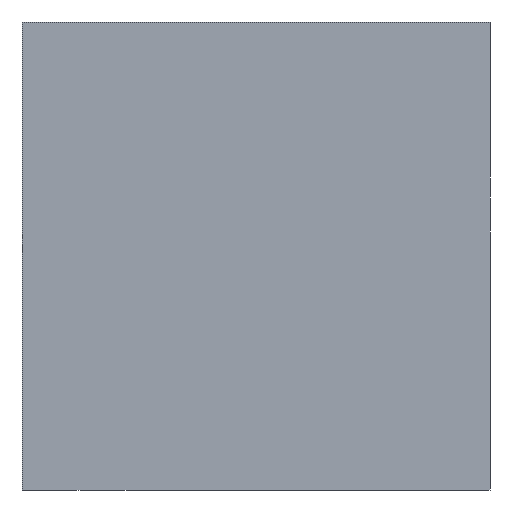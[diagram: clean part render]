
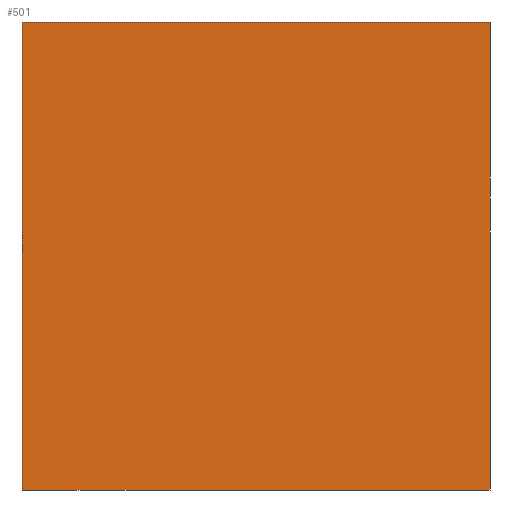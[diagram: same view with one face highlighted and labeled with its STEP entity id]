
A CAD part, left-side view. The second image highlights one B-rep face of the part: STEP entity #501.
In plain terms, the highlighted planar face has unit normal (-1, 0, 0).
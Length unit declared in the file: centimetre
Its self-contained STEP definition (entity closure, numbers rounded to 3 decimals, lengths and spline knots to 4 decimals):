
#57 = LINE ( 'NONE', #358, #305 ) ;
#86 = PLANE ( 'NONE',  #167 ) ;
#96 = CARTESIAN_POINT ( 'NONE',  ( 0., 0., 1000. ) ) ;
#109 = VECTOR ( 'NONE', #853, 100. ) ;
#127 = ORIENTED_EDGE ( 'NONE', *, *, #876, .T. ) ;
#164 = ORIENTED_EDGE ( 'NONE', *, *, #376, .F. ) ;
#167 = AXIS2_PLACEMENT_3D ( 'NONE', #752, #230, #603 ) ;
#221 = CARTESIAN_POINT ( 'NONE',  ( 0., 1000., 0. ) ) ;
#230 = DIRECTION ( 'NONE',  ( 1., 0., 0. ) ) ;
#264 = EDGE_CURVE ( 'NONE', #377, #734, #947, .T. ) ;
#270 = CARTESIAN_POINT ( 'NONE',  ( 0., 1000., 0. ) ) ;
#305 = VECTOR ( 'NONE', #894, 100. ) ;
#336 = VECTOR ( 'NONE', #863, 100. ) ;
#340 = LINE ( 'NONE', #270, #336 ) ;
#349 = CARTESIAN_POINT ( 'NONE',  ( 0., 1000., 1000. ) ) ;
#358 = CARTESIAN_POINT ( 'NONE',  ( 0., 1000., 1000. ) ) ;
#376 = EDGE_CURVE ( 'NONE', #377, #441, #57, .T. ) ;
#377 = VERTEX_POINT ( 'NONE', #349 ) ;
#387 = CARTESIAN_POINT ( 'NONE',  ( 0., 0., 0. ) ) ;
#441 = VERTEX_POINT ( 'NONE', #96 ) ;
#460 = FACE_OUTER_BOUND ( 'NONE', #718, .T. ) ;
#501 = ADVANCED_FACE ( 'NONE', ( #460 ), #86, .F. ) ;
#593 = EDGE_CURVE ( 'NONE', #441, #860, #770, .T. ) ;
#603 = DIRECTION ( 'NONE',  ( 0., 0., -1. ) ) ;
#663 = CARTESIAN_POINT ( 'NONE',  ( 0., 1000., 1000. ) ) ;
#692 = CARTESIAN_POINT ( 'NONE',  ( 0., 0., 1000. ) ) ;
#718 = EDGE_LOOP ( 'NONE', ( #127, #736, #164, #950 ) ) ;
#734 = VERTEX_POINT ( 'NONE', #221 ) ;
#736 = ORIENTED_EDGE ( 'NONE', *, *, #593, .F. ) ;
#752 = CARTESIAN_POINT ( 'NONE',  ( 0., 1000., 1000. ) ) ;
#770 = LINE ( 'NONE', #692, #109 ) ;
#803 = DIRECTION ( 'NONE',  ( 0., 0., -1. ) ) ;
#853 = DIRECTION ( 'NONE',  ( 0., 0., -1. ) ) ;
#860 = VERTEX_POINT ( 'NONE', #387 ) ;
#863 = DIRECTION ( 'NONE',  ( 0., -1., 0. ) ) ;
#876 = EDGE_CURVE ( 'NONE', #734, #860, #340, .T. ) ;
#894 = DIRECTION ( 'NONE',  ( 0., -1., 0. ) ) ;
#917 = VECTOR ( 'NONE', #803, 100. ) ;
#947 = LINE ( 'NONE', #663, #917 ) ;
#950 = ORIENTED_EDGE ( 'NONE', *, *, #264, .T. ) ;
